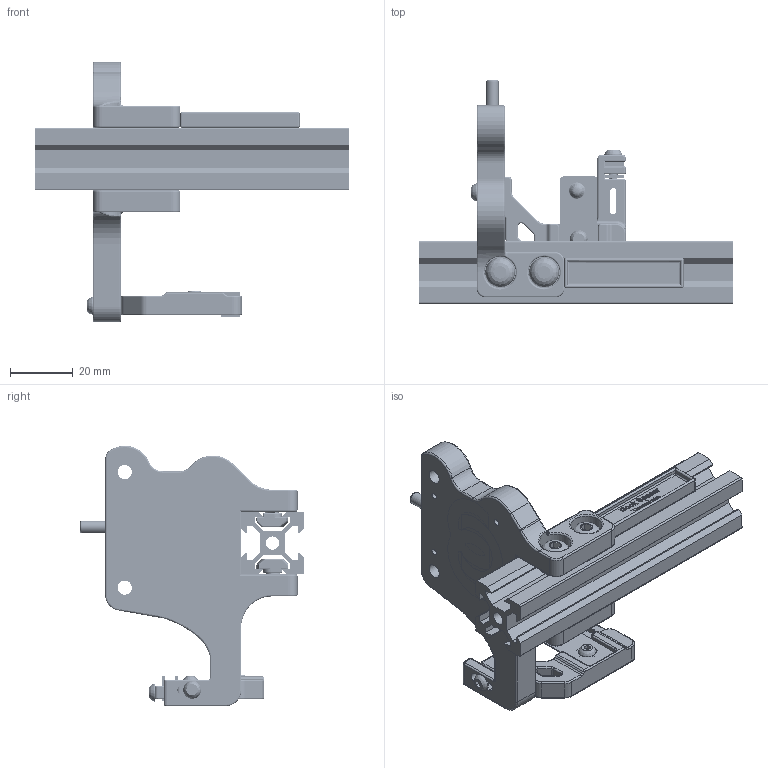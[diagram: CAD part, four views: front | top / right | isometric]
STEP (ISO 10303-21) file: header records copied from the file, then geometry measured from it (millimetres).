
FILE_DESCRIPTION(/* description */ ('','CAx-IF Rec.Pracs.---Representation and Presentation of Product Manufacturing Information (PMI)---4.0---2014-10-13'),/* implementation_level */ '2;1');
FILE_NAME(/* name */ 'Lineux One Dock v21.step',/* time_stamp */ '2024-12-15T21:29:09+07:00',/* author */ (''),/* organization */ (''),/* preprocessor_version */ 'ST-DEVELOPER v20',/* originating_system */ 'Autodesk Translation Framework v13.20.0.188',/* authorisation */ '');
FILE_SCHEMA (('AP242_MANAGED_MODEL_BASED_3D_ENGINEERING_MIM_LF { 1 0 10303 442 1 1 4 }'));
Products named in the file (36): Lineux One Dock; Dock; 2020 Extrusion (1); Silicon Wall (2); Silicon Wall (2) (1); Silicon Wall (3) (1); Hardware (2); m5 t nut; m5 t nut (1); m5 x 8mm bhcs (1) (1); m5 t nut (1) (1); m5 x 8mm bhcs (1); m5 t nut (2); m5 x 8mm bhcs; m3 brass insert (14); m3 washer; m3 x 8mm bhcs (1); m3 x 6mm bhcs (1) (1); m4 x 15mm threaded dowel pin ID (m3); m3 x 10mm bhcs (2); spring OD6 ID5 17mm; m5 x 8mm bhcs (2); m3 hex nut (3) (1); AA battery terminal (1); m3 x 10mm bhcs; Magnet; 8 x 5mm magnet (7); 8 x 5mm magnet (1) (1); 8 x 5mm magnet (1) (1) (1); 8 x 5mm magnet (1) (2); Printed Parts (2); Lineux Logo Dock Red; Lineux Logo Dock Blue; Dock Body; Dock Spacer Template; Nozzle Blocker Mount r2
Assembly tree (35 placements, depth 4):
  Lineux One Dock
    Dock
      2020 Extrusion (1)
      Silicon Wall (2)
        Silicon Wall (2) (1)
        Silicon Wall (3) (1)
      Hardware (2)
        m5 t nut
        m5 t nut (1)
        m5 x 8mm bhcs (1) (1)
        m5 t nut (1) (1)
        m5 x 8mm bhcs (1)
        m5 t nut (2)
        m5 x 8mm bhcs
        m3 brass insert (14)
        m3 washer
        m3 x 8mm bhcs (1)
        m3 x 6mm bhcs (1) (1)
        m4 x 15mm threaded dowel pin ID (m3)
        m3 x 10mm bhcs (2)
        spring OD6 ID5 17mm
        m5 x 8mm bhcs (2)
        m3 hex nut (3) (1)
        AA battery terminal (1)
        m3 x 10mm bhcs
      Magnet
        8 x 5mm magnet (7)
        8 x 5mm magnet (1) (1)
        8 x 5mm magnet (1) (1) (1)
        8 x 5mm magnet (1) (2)
      Printed Parts (2)
        Lineux Logo Dock Red
        Lineux Logo Dock Blue
        Dock Body
        Dock Spacer Template
        Nozzle Blocker Mount r2
Bounding box: 100 x 71.3 x 83.04 mm (x, y, z)
Volume: 49170.7 mm3; surface area: 40873.3 mm2
Topology: 30 solids, 30 shells, 2750 faces, 6973 edges, 4300 vertices
Faces by surface type: cylinder 1076, plane 659, bspline 634, torus 169, sphere 145, cone 67
Full cylindrical faces by diameter (mm): 2 x4, 2.356 x68, 2.376 x10, 2.5 x5, 2.529 x10, 2.9 x3, 2.927 x64, 3 x1, 3.086 x5, 3.2 x2, 3.4 x3, 3.505 x1, 3.564 x1, 3.99 x12, 4 x1, 4.2 x22, 4.5 x2, 4.7 x1, 4.751 x1, 4.901 x24, 5.066 x20, 5.5 x4, 5.7 x4, 6.5 x1, 6.7 x1, 8 x4, 8.1 x4, 10 x4
Entity records: 145124 total; most frequent: CARTESIAN_POINT 82433, ORIENTED_EDGE 13848, DIRECTION 11679, EDGE_CURVE 6924, AXIS2_PLACEMENT_3D 4435, VERTEX_POINT 4300, EDGE_LOOP 2874, LINE 2809
